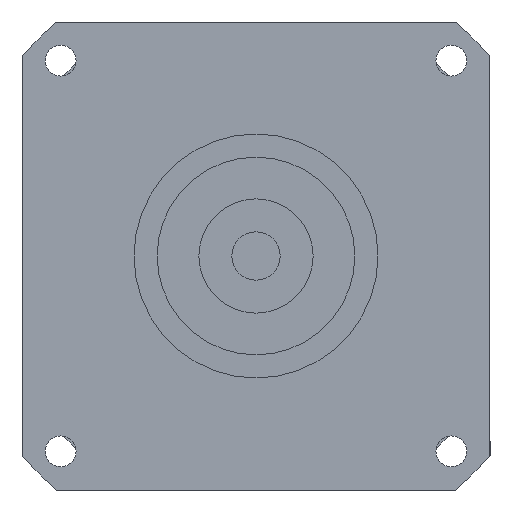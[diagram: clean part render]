
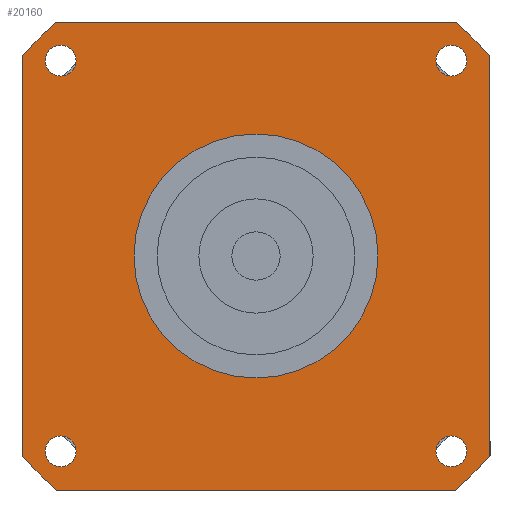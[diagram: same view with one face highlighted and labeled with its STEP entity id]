
A CAD part, left-side view. The second image highlights one B-rep face of the part: STEP entity #20160.
In plain terms, the highlighted planar face has unit normal (-1, 0, 0) as drawn and (0, 0, -1) by its records, which use the part's own axes.
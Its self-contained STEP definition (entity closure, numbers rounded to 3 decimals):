
#18320=CARTESIAN_POINT('',(-40.949,-44.449,-116.));
#18330=VERTEX_POINT('',#18320);
#18410=CARTESIAN_POINT('',(-47.949,-44.449,-116.));
#18420=VERTEX_POINT('',#18410);
#18450=CARTESIAN_POINT('',(-44.449,-44.449,-116.));
#18460=DIRECTION('',(0.,0.,-1.));
#18470=DIRECTION('',(0.,-1.,0.));
#18480=AXIS2_PLACEMENT_3D('',#18450,#18460,#18470);
#18490=CIRCLE('',#18480,3.5);
#18500=CARTESIAN_POINT('',(-44.449,-47.949,-116.));
#18510=VERTEX_POINT('',#18500);
#18520=EDGE_CURVE('',#18510,#18420,#18490,.T.);
#18540=EDGE_CURVE('',#18330,#18510,#18490,.T.);
#18590=CARTESIAN_POINT('',(-53.25,53.25,-116.));
#18600=DIRECTION('',(0.,0.,1.));
#18610=DIRECTION('',(-1.,0.,0.));
#18620=AXIS2_PLACEMENT_3D('',#18590,#18600,#18610);
#18630=PLANE('',#18620);
#18640=CARTESIAN_POINT('',(44.449,-44.449,-116.));
#18650=DIRECTION('',(0.,0.,-1.));
#18660=DIRECTION('',(1.,0.,0.));
#18670=AXIS2_PLACEMENT_3D('',#18640,#18650,#18660);
#18680=CIRCLE('',#18670,3.5);
#18690=CARTESIAN_POINT('',(47.949,-44.449,-116.));
#18700=VERTEX_POINT('',#18690);
#18710=CARTESIAN_POINT('',(44.449,-47.949,-116.));
#18720=VERTEX_POINT('',#18710);
#18730=EDGE_CURVE('',#18700,#18720,#18680,.T.);
#18740=ORIENTED_EDGE('',*,*,#18730,.F.);
#18750=CARTESIAN_POINT('',(44.449,-40.949,-116.));
#18760=VERTEX_POINT('',#18750);
#18770=EDGE_CURVE('',#18720,#18760,#18680,.T.);
#18780=ORIENTED_EDGE('',*,*,#18770,.F.);
#18790=EDGE_CURVE('',#18760,#18700,#18680,.T.);
#18800=ORIENTED_EDGE('',*,*,#18790,.F.);
#18810=EDGE_LOOP('',(#18800,#18780,#18740));
#18820=FACE_BOUND('',#18810,.T.);
#18830=CARTESIAN_POINT('',(44.449,44.449,-116.));
#18840=DIRECTION('',(0.,0.,-1.));
#18850=DIRECTION('',(0.,1.,0.));
#18860=AXIS2_PLACEMENT_3D('',#18830,#18840,#18850);
#18870=CIRCLE('',#18860,3.5);
#18880=CARTESIAN_POINT('',(44.449,47.949,-116.));
#18890=VERTEX_POINT('',#18880);
#18900=CARTESIAN_POINT('',(47.949,44.449,-116.));
#18910=VERTEX_POINT('',#18900);
#18920=EDGE_CURVE('',#18890,#18910,#18870,.T.);
#18930=ORIENTED_EDGE('',*,*,#18920,.F.);
#18940=CARTESIAN_POINT('',(40.949,44.449,-116.));
#18950=VERTEX_POINT('',#18940);
#18960=EDGE_CURVE('',#18910,#18950,#18870,.T.);
#18970=ORIENTED_EDGE('',*,*,#18960,.F.);
#18980=EDGE_CURVE('',#18950,#18890,#18870,.T.);
#18990=ORIENTED_EDGE('',*,*,#18980,.F.);
#19000=EDGE_LOOP('',(#18990,#18970,#18930));
#19010=FACE_BOUND('',#19000,.T.);
#19020=CARTESIAN_POINT('',(-44.449,44.449,-116.));
#19030=DIRECTION('',(0.,0.,-1.));
#19040=DIRECTION('',(-1.,0.,0.));
#19050=AXIS2_PLACEMENT_3D('',#19020,#19030,#19040);
#19060=CIRCLE('',#19050,3.5);
#19070=CARTESIAN_POINT('',(-47.949,44.449,-116.));
#19080=VERTEX_POINT('',#19070);
#19090=CARTESIAN_POINT('',(-44.449,47.949,-116.));
#19100=VERTEX_POINT('',#19090);
#19110=EDGE_CURVE('',#19080,#19100,#19060,.T.);
#19120=ORIENTED_EDGE('',*,*,#19110,.F.);
#19130=CARTESIAN_POINT('',(-44.449,40.949,-116.));
#19140=VERTEX_POINT('',#19130);
#19150=EDGE_CURVE('',#19100,#19140,#19060,.T.);
#19160=ORIENTED_EDGE('',*,*,#19150,.F.);
#19170=EDGE_CURVE('',#19140,#19080,#19060,.T.);
#19180=ORIENTED_EDGE('',*,*,#19170,.F.);
#19190=EDGE_LOOP('',(#19180,#19160,#19120));
#19200=FACE_BOUND('',#19190,.T.);
#19210=ORIENTED_EDGE('',*,*,#18520,.F.);
#19220=EDGE_CURVE('',#18420,#18330,#18490,.T.);
#19230=ORIENTED_EDGE('',*,*,#19220,.F.);
#19240=ORIENTED_EDGE('',*,*,#18540,.F.);
#19250=EDGE_LOOP('',(#19240,#19230,#19210));
#19260=FACE_BOUND('',#19250,.T.);
#19270=CARTESIAN_POINT('',(0.,0.,
-116.));
#19280=DIRECTION('',(0.,0.,1.));
#19290=DIRECTION('',(0.,-1.,0.));
#19300=AXIS2_PLACEMENT_3D('',#19270,#19280,#19290);
#19310=CIRCLE('',#19300,70.);
#19320=CARTESIAN_POINT('',(-53.25,-45.436,-116.));
#19330=VERTEX_POINT('',#19320);
#19340=CARTESIAN_POINT('',(-45.436,-53.25,-116.));
#19350=VERTEX_POINT('',#19340);
#19360=EDGE_CURVE('',#19330,#19350,#19310,.T.);
#19370=ORIENTED_EDGE('',*,*,#19360,.F.);
#19380=CARTESIAN_POINT('',(-53.25,-53.25,-116.));
#19390=DIRECTION('',(1.,0.,0.));
#19400=VECTOR('',#19390,1000.);
#19410=LINE('',#19380,#19400);
#19420=CARTESIAN_POINT('',(45.436,-53.25,-116.));
#19430=VERTEX_POINT('',#19420);
#19440=EDGE_CURVE('',#19350,#19430,#19410,.T.);
#19450=ORIENTED_EDGE('',*,*,#19440,.F.);
#19460=CARTESIAN_POINT('',(0.,0.,
-116.));
#19470=DIRECTION('',(0.,0.,1.));
#19480=DIRECTION('',(0.,-1.,0.));
#19490=AXIS2_PLACEMENT_3D('',#19460,#19470,#19480);
#19500=CIRCLE('',#19490,70.);
#19510=CARTESIAN_POINT('',(53.25,-45.436,-116.));
#19520=VERTEX_POINT('',#19510);
#19530=EDGE_CURVE('',#19430,#19520,#19500,.T.);
#19540=ORIENTED_EDGE('',*,*,#19530,.F.);
#19550=CARTESIAN_POINT('',(53.25,-53.25,-116.));
#19560=DIRECTION('',(0.,1.,0.));
#19570=VECTOR('',#19560,1000.);
#19580=LINE('',#19550,#19570);
#19590=CARTESIAN_POINT('',(53.25,45.436,-116.));
#19600=VERTEX_POINT('',#19590);
#19610=EDGE_CURVE('',#19520,#19600,#19580,.T.);
#19620=ORIENTED_EDGE('',*,*,#19610,.F.);
#19630=CARTESIAN_POINT('',(0.,0.,
-116.));
#19640=DIRECTION('',(0.,0.,1.));
#19650=DIRECTION('',(0.,-1.,0.));
#19660=AXIS2_PLACEMENT_3D('',#19630,#19640,#19650);
#19670=CIRCLE('',#19660,70.);
#19680=CARTESIAN_POINT('',(45.436,53.25,-116.));
#19690=VERTEX_POINT('',#19680);
#19700=EDGE_CURVE('',#19600,#19690,#19670,.T.);
#19710=ORIENTED_EDGE('',*,*,#19700,.F.);
#19720=CARTESIAN_POINT('',(53.25,53.25,-116.));
#19730=DIRECTION('',(-1.,0.,0.));
#19740=VECTOR('',#19730,1000.);
#19750=LINE('',#19720,#19740);
#19760=CARTESIAN_POINT('',(-45.436,53.25,-116.));
#19770=VERTEX_POINT('',#19760);
#19780=EDGE_CURVE('',#19690,#19770,#19750,.T.);
#19790=ORIENTED_EDGE('',*,*,#19780,.F.);
#19800=CARTESIAN_POINT('',(0.,0.,
-116.));
#19810=DIRECTION('',(0.,0.,1.));
#19820=DIRECTION('',(0.,-1.,0.));
#19830=AXIS2_PLACEMENT_3D('',#19800,#19810,#19820);
#19840=CIRCLE('',#19830,70.);
#19850=CARTESIAN_POINT('',(-53.25,45.436,-116.));
#19860=VERTEX_POINT('',#19850);
#19870=EDGE_CURVE('',#19770,#19860,#19840,.T.);
#19880=ORIENTED_EDGE('',*,*,#19870,.F.);
#19890=CARTESIAN_POINT('',(-53.25,53.25,-116.));
#19900=DIRECTION('',(0.,-1.,0.));
#19910=VECTOR('',#19900,1000.);
#19920=LINE('',#19890,#19910);
#19930=EDGE_CURVE('',#19860,#19330,#19920,.T.);
#19940=ORIENTED_EDGE('',*,*,#19930,.F.);
#19950=EDGE_LOOP('',(#19940,#19880,#19790,#19710,#19620,#19540,#19450,
#19370));
#19960=FACE_OUTER_BOUND('',#19950,.T.);
#19970=CARTESIAN_POINT('',(0.,0.,
-116.));
#19980=DIRECTION('',(0.,0.,1.));
#19990=DIRECTION('',(0.,-1.,0.));
#20000=AXIS2_PLACEMENT_3D('',#19970,#19980,#19990);
#20010=CIRCLE('',#20000,27.76);
#20020=CARTESIAN_POINT('',(27.76,0.,-116.));
#20030=VERTEX_POINT('',#20020);
#20040=CARTESIAN_POINT('',(-27.76,0.,-116.));
#20050=VERTEX_POINT('',#20040);
#20060=EDGE_CURVE('',#20030,#20050,#20010,.T.);
#20070=ORIENTED_EDGE('',*,*,#20060,.T.);
#20080=CARTESIAN_POINT('',(0.,-27.76,-116.));
#20090=VERTEX_POINT('',#20080);
#20100=EDGE_CURVE('',#20090,#20030,#20010,.T.);
#20110=ORIENTED_EDGE('',*,*,#20100,.T.);
#20120=EDGE_CURVE('',#20050,#20090,#20010,.T.);
#20130=ORIENTED_EDGE('',*,*,#20120,.T.);
#20140=EDGE_LOOP('',(#20130,#20110,#20070));
#20150=FACE_BOUND('',#20140,.T.);
#20160=ADVANCED_FACE('',(#18820,#19010,#19200,#19260,#19960,#20150),
#18630,.F.);
